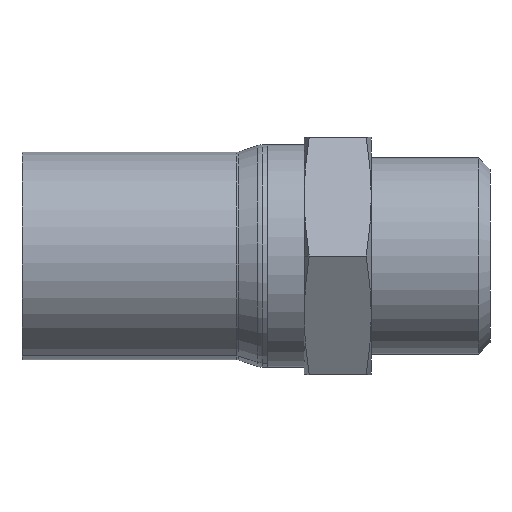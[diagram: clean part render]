
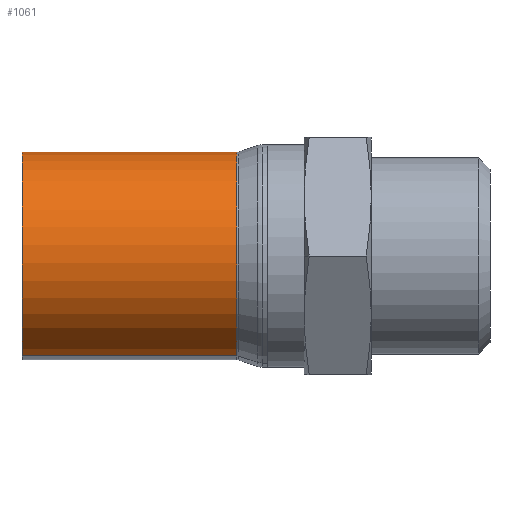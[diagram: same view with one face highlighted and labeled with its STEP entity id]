
A CAD part, left-side view. The second image highlights one B-rep face of the part: STEP entity #1061.
In plain terms, the highlighted cylindrical face has radius 14 mm (diameter 28 mm), a partial arc.
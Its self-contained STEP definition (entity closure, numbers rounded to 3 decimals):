
#61 = CYLINDRICAL_SURFACE ( 'NONE', #1776, 14. ) ;
#78 = DIRECTION ( 'NONE',  ( 0., 0., 1. ) ) ;
#85 = CARTESIAN_POINT ( 'NONE',  ( 0., 0., 0. ) ) ;
#93 = CARTESIAN_POINT ( 'NONE',  ( -1.55, 0., -14. ) ) ;
#196 = EDGE_CURVE ( 'NONE', #1294, #1462, #717, .T. ) ;
#227 = DIRECTION ( 'NONE',  ( -1., 0., 0. ) ) ;
#240 = CARTESIAN_POINT ( 'NONE',  ( 0., 0., -14. ) ) ;
#277 = CARTESIAN_POINT ( 'NONE',  ( 28.919, 0., 0. ) ) ;
#310 = AXIS2_PLACEMENT_3D ( 'NONE', #85, #981, #78 ) ;
#419 = ORIENTED_EDGE ( 'NONE', *, *, #1183, .F. ) ;
#524 = EDGE_CURVE ( 'NONE', #1400, #557, #1187, .T. ) ;
#557 = VERTEX_POINT ( 'NONE', #961 ) ;
#580 = LINE ( 'NONE', #1658, #1295 ) ;
#596 = DIRECTION ( 'NONE',  ( -1., 0., 0. ) ) ;
#597 = AXIS2_PLACEMENT_3D ( 'NONE', #277, #596, #1171 ) ;
#663 = DIRECTION ( 'NONE',  ( -1., 0., 0. ) ) ;
#717 = CIRCLE ( 'NONE', #597, 14. ) ;
#728 = EDGE_LOOP ( 'NONE', ( #419, #878, #999, #1614 ) ) ;
#780 = LINE ( 'NONE', #93, #1379 ) ;
#811 = DIRECTION ( 'NONE',  ( -1., 0., 0. ) ) ;
#878 = ORIENTED_EDGE ( 'NONE', *, *, #196, .T. ) ;
#961 = CARTESIAN_POINT ( 'NONE',  ( 0., 0., 14. ) ) ;
#981 = DIRECTION ( 'NONE',  ( -1., 0., 0. ) ) ;
#999 = ORIENTED_EDGE ( 'NONE', *, *, #1312, .T. ) ;
#1005 = FACE_OUTER_BOUND ( 'NONE', #728, .T. ) ;
#1061 = ADVANCED_FACE ( 'NONE', ( #1005 ), #61, .T. ) ;
#1103 = CARTESIAN_POINT ( 'NONE',  ( 28.919, 0., -14. ) ) ;
#1171 = DIRECTION ( 'NONE',  ( 0., 0., 1. ) ) ;
#1183 = EDGE_CURVE ( 'NONE', #1294, #1400, #780, .T. ) ;
#1187 = CIRCLE ( 'NONE', #310, 14. ) ;
#1294 = VERTEX_POINT ( 'NONE', #1103 ) ;
#1295 = VECTOR ( 'NONE', #811, 1000. ) ;
#1312 = EDGE_CURVE ( 'NONE', #1462, #557, #580, .T. ) ;
#1379 = VECTOR ( 'NONE', #227, 1000. ) ;
#1400 = VERTEX_POINT ( 'NONE', #240 ) ;
#1462 = VERTEX_POINT ( 'NONE', #1851 ) ;
#1523 = CARTESIAN_POINT ( 'NONE',  ( -1.55, 0., 0. ) ) ;
#1614 = ORIENTED_EDGE ( 'NONE', *, *, #524, .F. ) ;
#1658 = CARTESIAN_POINT ( 'NONE',  ( -1.55, 0., 14. ) ) ;
#1664 = DIRECTION ( 'NONE',  ( 0., 0., 1. ) ) ;
#1776 = AXIS2_PLACEMENT_3D ( 'NONE', #1523, #663, #1664 ) ;
#1851 = CARTESIAN_POINT ( 'NONE',  ( 28.919, 0., 14. ) ) ;
